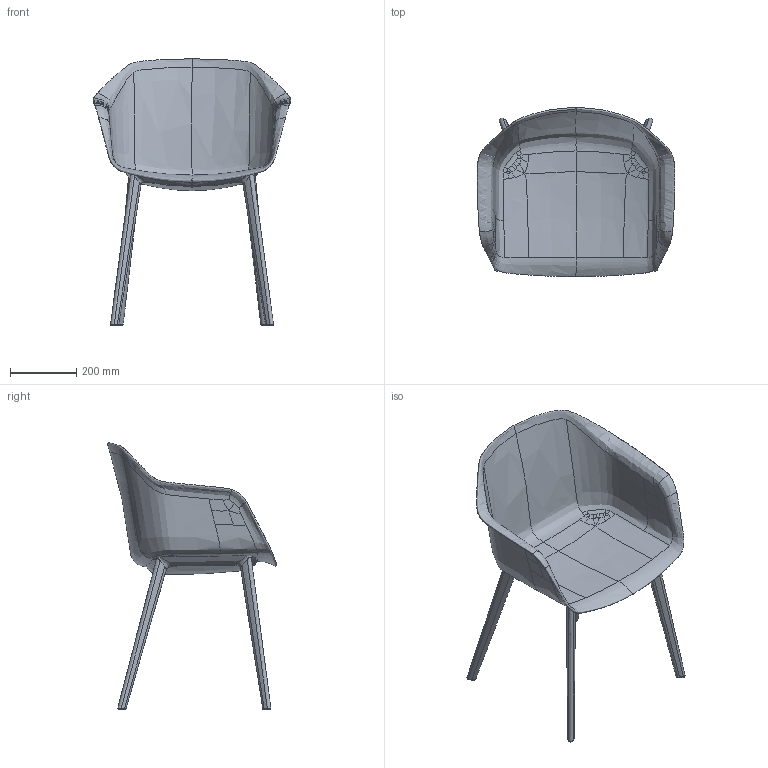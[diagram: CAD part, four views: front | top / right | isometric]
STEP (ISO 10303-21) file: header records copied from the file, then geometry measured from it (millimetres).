
FILE_DESCRIPTION(/* description */ (''),/* implementation_level */ '2;1');
FILE_NAME(/* name */ 'RIVA RI-01-PP,PP',/* time_stamp */ '2024-07-10T23:42:24+02:00',/* author */ (''),/* organization */ (''),/* preprocessor_version */ 'ST-DEVELOPER v16.5',/* originating_system */ 'Rhino 7.36',/* authorisation */ '');
FILE_SCHEMA (('CONFIG_CONTROL_DESIGN'));
Length unit declared in the file: millimetre
Products named in the file (1): Document
Bounding box: 595.11 x 509.94 x 801.9 mm (x, y, z)
Surface area: 1336335.7 mm2
Topology: 4 solids, 8 shells, 168 faces, 455 edges, 302 vertices
Faces by surface type: bspline 156, plane 12
Entity records: 31170 total; most frequent: CARTESIAN_POINT 28336, ORIENTED_EDGE 850, EDGE_CURVE 452, B_SPLINE_CURVE_WITH_KNOTS 435, VERTEX_POINT 296, ADVANCED_FACE 168, FACE_OUTER_BOUND 168, EDGE_LOOP 168
